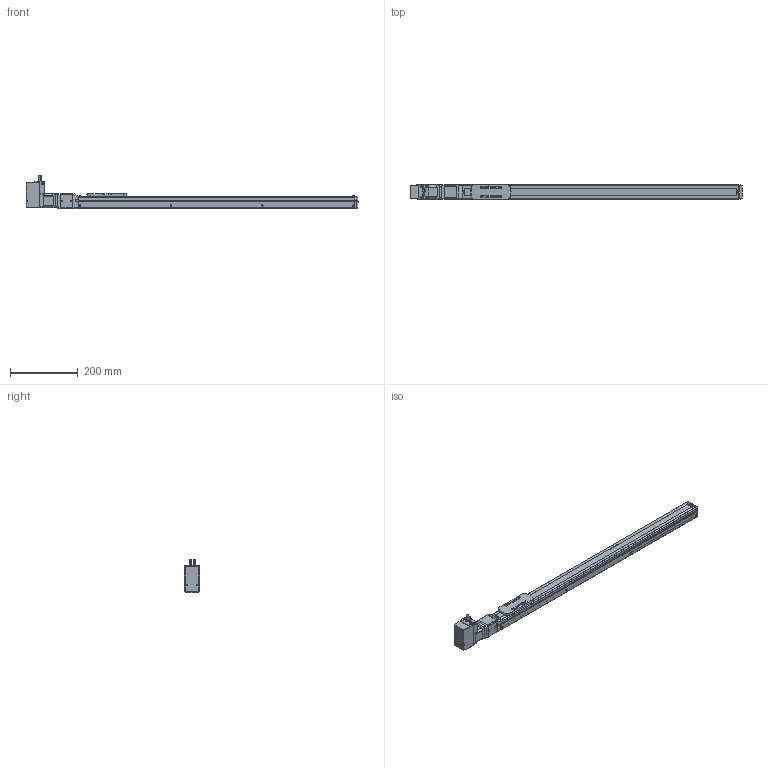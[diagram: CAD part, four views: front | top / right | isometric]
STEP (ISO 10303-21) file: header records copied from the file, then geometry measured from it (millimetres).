
FILE_DESCRIPTION(('FreeCAD Model'),'2;1');
FILE_NAME('Open CASCADE Shape Model','2023-08-01T18:10:24',('Author'),( ''),'Open CASCADE STEP processor 7.5','FreeCAD','Unknown');
FILE_SCHEMA(('AUTOMOTIVE_DESIGN { 1 0 10303 214 1 1 1 1 }'));
Length unit declared in the file: millimetre
Products named in the file (20): RCB0411; Shapes; Shapes001; Shapes002; Shapes003; Shapes004; Shapes005; Shapes006; Shapes007; Shapes008; Shapes009; Shapes010; Shapes011; Shapes012; Shapes013; KSF4-10-0650-0-AR(0); KSF4---(Cover); KSF4-AR---(Motor bracket); KSF4-10-0650---(slider); KSF4-10-0650-0-AR-(06500ARNo0)---(body)
Assembly tree (19 placements, depth 3):
  RCB0411
    Shapes
    Shapes001
    Shapes002
    Shapes003
    Shapes004
    Shapes005
    Shapes006
    Shapes007
    Shapes008
    Shapes009
    Shapes010
    Shapes011
    Shapes012
    Shapes013
    KSF4-10-0650-0-AR(0)
      KSF4---(Cover)
      KSF4-AR---(Motor bracket)
      KSF4-10-0650---(slider)
      KSF4-10-0650-0-AR-(06500ARNo0)---(body)
Bounding box: 982 x 45.4 x 99.34 mm (x, y, z)
Volume: 1561288 mm3; surface area: 293314.2 mm2
Topology: 18 solids, 18 shells, 1301 faces, 3354 edges, 2188 vertices
Faces by surface type: plane 719, cylinder 432, cone 68, torus 53, bspline 19, revolution 6, sphere 4
Full cylindrical faces by diameter (mm): 2.113 x8, 2.459 x3, 3 x6, 3.242 x4, 3.4 x18, 4 x3, 4.5 x2, 5.5 x8, 6 x1, 6.5 x20, 8 x1, 12 x1, 22 x1, 28 x1, 30 x2
Entity records: 94882 total; most frequent: CARTESIAN_POINT 27154, DIRECTION 12729, LINE 7559, VECTOR 7559, ORIENTED_EDGE 6672, PCURVE 6672, DEFINITIONAL_REPRESENTATION 6672, EDGE_CURVE 3336
